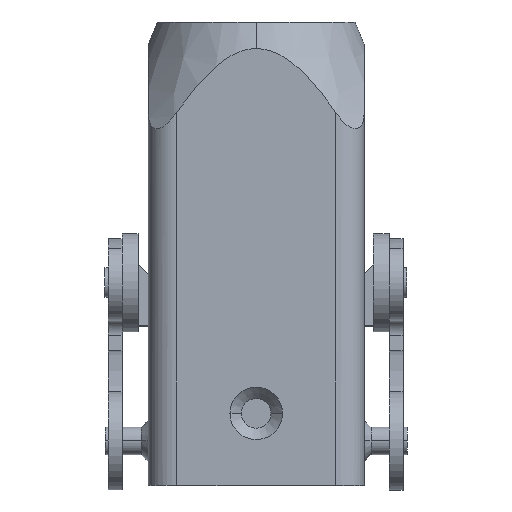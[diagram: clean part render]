
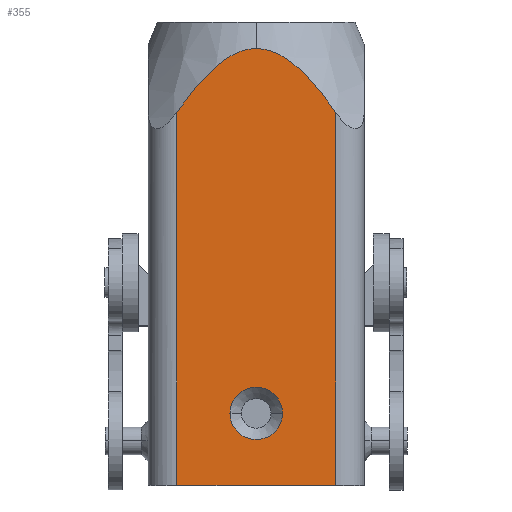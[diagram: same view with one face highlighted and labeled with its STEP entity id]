
A CAD part, top view. The second image highlights one B-rep face of the part: STEP entity #355.
In plain terms, the highlighted planar face has unit normal (0, 0, 1).
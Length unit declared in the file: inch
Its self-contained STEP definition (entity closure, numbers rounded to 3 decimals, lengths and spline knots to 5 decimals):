
#352 = VERTEX_POINT ( 'NONE', #2015 ) ;
#354 = EDGE_CURVE ( 'NONE', #628, #352, #2013, .T. ) ;
#355 = ADVANCED_FACE ( 'NONE', ( #2005, #2009 ), #1959, .F. ) ;
#356 = EDGE_LOOP ( 'NONE', ( #357, #427 ) ) ;
#357 = ORIENTED_EDGE ( 'NONE', *, *, #535, .T. ) ;
#358 = EDGE_LOOP ( 'NONE', ( #429, #430, #431, #434, #420 ) ) ;
#420 = ORIENTED_EDGE ( 'NONE', *, *, #421, .F. ) ;
#421 = EDGE_CURVE ( 'NONE', #631, #436, #2185, .T. ) ;
#427 = ORIENTED_EDGE ( 'NONE', *, *, #428, .T. ) ;
#428 = EDGE_CURVE ( 'NONE', #563, #536, #2432, .T. ) ;
#429 = ORIENTED_EDGE ( 'NONE', *, *, #630, .F. ) ;
#430 = ORIENTED_EDGE ( 'NONE', *, *, #354, .T. ) ;
#431 = ORIENTED_EDGE ( 'NONE', *, *, #432, .T. ) ;
#432 = EDGE_CURVE ( 'NONE', #352, #433, #2465, .T. ) ;
#433 = VERTEX_POINT ( 'NONE', #2552 ) ;
#434 = ORIENTED_EDGE ( 'NONE', *, *, #435, .F. ) ;
#435 = EDGE_CURVE ( 'NONE', #436, #433, #2551, .T. ) ;
#436 = VERTEX_POINT ( 'NONE', #2383 ) ;
#535 = EDGE_CURVE ( 'NONE', #536, #563, #2611, .T. ) ;
#536 = VERTEX_POINT ( 'NONE', #2605 ) ;
#563 = VERTEX_POINT ( 'NONE', #2815 ) ;
#628 = VERTEX_POINT ( 'NONE', #3716 ) ;
#630 = EDGE_CURVE ( 'NONE', #628, #631, #3585, .T. ) ;
#631 = VERTEX_POINT ( 'NONE', #3584 ) ;
#1954 = DIRECTION ( 'NONE',  ( -1., 0., 0. ) ) ;
#1955 = DIRECTION ( 'NONE',  ( 0., 0., -1. ) ) ;
#1956 = CARTESIAN_POINT ( 'NONE',  ( -0.3475, 2.02756, 0.4795 ) ) ;
#1957 = AXIS2_PLACEMENT_3D ( 'NONE', #1956, #1955, #1954 ) ;
#1959 = PLANE ( 'NONE',  #1957 ) ;
#2005 = FACE_BOUND ( 'NONE', #356, .T. ) ;
#2009 = FACE_OUTER_BOUND ( 'NONE', #358, .T. ) ;
#2010 = DIRECTION ( 'NONE',  ( 0., -1., 0. ) ) ;
#2011 = VECTOR ( 'NONE', #2010, 39.37008 ) ;
#2012 = CARTESIAN_POINT ( 'NONE',  ( -0.3475, 2.02756, 0.4795 ) ) ;
#2013 = LINE ( 'NONE', #2012, #2011 ) ;
#2015 = CARTESIAN_POINT ( 'NONE',  ( -0.3475, 0., 0.4795 ) ) ;
#2159 = CARTESIAN_POINT ( 'NONE',  ( 0.3475, 1.63234, 0.4795 ) ) ;
#2160 = CARTESIAN_POINT ( 'NONE',  ( 0.32575, 1.66393, 0.4795 ) ) ;
#2161 = CARTESIAN_POINT ( 'NONE',  ( 0.30299, 1.69509, 0.4795 ) ) ;
#2162 = CARTESIAN_POINT ( 'NONE',  ( 0.25497, 1.75486, 0.4795 ) ) ;
#2163 = CARTESIAN_POINT ( 'NONE',  ( 0.22971, 1.78358, 0.4795 ) ) ;
#2164 = CARTESIAN_POINT ( 'NONE',  ( 0.18831, 1.82338, 0.4795 ) ) ;
#2165 = CARTESIAN_POINT ( 'NONE',  ( 0.17392, 1.83609, 0.4795 ) ) ;
#2166 = CARTESIAN_POINT ( 'NONE',  ( 0.14335, 1.85985, 0.4795 ) ) ;
#2167 = CARTESIAN_POINT ( 'NONE',  ( 0.12726, 1.87081, 0.4795 ) ) ;
#2168 = CARTESIAN_POINT ( 'NONE',  ( 0.10201, 1.88484, 0.4795 ) ) ;
#2169 = CARTESIAN_POINT ( 'NONE',  ( 0.09338, 1.88913, 0.4795 ) ) ;
#2170 = CARTESIAN_POINT ( 'NONE',  ( 0.07562, 1.89676, 0.4795 ) ) ;
#2171 = CARTESIAN_POINT ( 'NONE',  ( 0.06641, 1.90012, 0.4795 ) ) ;
#2172 = CARTESIAN_POINT ( 'NONE',  ( 0.03846, 1.9083, 0.4795 ) ) ;
#2173 = CARTESIAN_POINT ( 'NONE',  ( 0.01945, 1.91123, 0.4795 ) ) ;
#2183 = CARTESIAN_POINT ( 'NONE',  ( 0., 1.91123, 0.4795 ) ) ;
#2185 = B_SPLINE_CURVE_WITH_KNOTS ( 'NONE', 3,
 ( #2183, #2173, #2172, #2171, #2170, #2169, #2168, #2167, #2166, #2165, #2164, #2163, #2162, #2161, #2160, #2159 ),
 .UNSPECIFIED., .F., .F.,
 ( 4, 2, 2, 2, 2, 2, 2, 4 ),
 ( 0.03109, 0.03255, 0.03328, 0.03401, 0.03547, 0.03693, 0.03985, 0.04277 ),
 .UNSPECIFIED. ) ;
#2383 = CARTESIAN_POINT ( 'NONE',  ( 0.3475, 1.63234, 0.4795 ) ) ;
#2384 = DIRECTION ( 'NONE',  ( 0., -1., 0. ) ) ;
#2385 = VECTOR ( 'NONE', #2384, 39.37008 ) ;
#2386 = CARTESIAN_POINT ( 'NONE',  ( 0.3475, 2.02756, 0.4795 ) ) ;
#2429 = DIRECTION ( 'NONE',  ( 0., 0., -1. ) ) ;
#2430 = CARTESIAN_POINT ( 'NONE',  ( 0., 0.315, 0.4795 ) ) ;
#2431 = AXIS2_PLACEMENT_3D ( 'NONE', #2430, #2429, #2466 ) ;
#2432 = CIRCLE ( 'NONE', #2431, 0.115 ) ;
#2462 = DIRECTION ( 'NONE',  ( 1., 0., 0. ) ) ;
#2463 = VECTOR ( 'NONE', #2462, 39.37008 ) ;
#2464 = CARTESIAN_POINT ( 'NONE',  ( -0.3475, 0., 0.4795 ) ) ;
#2465 = LINE ( 'NONE', #2464, #2463 ) ;
#2466 = DIRECTION ( 'NONE',  ( -1., 0., 0. ) ) ;
#2551 = LINE ( 'NONE', #2386, #2385 ) ;
#2552 = CARTESIAN_POINT ( 'NONE',  ( 0.3475, 0., 0.4795 ) ) ;
#2605 = CARTESIAN_POINT ( 'NONE',  ( 0.115, 0.315, 0.4795 ) ) ;
#2607 = DIRECTION ( 'NONE',  ( -1., 0., 0. ) ) ;
#2608 = DIRECTION ( 'NONE',  ( 0., 0., -1. ) ) ;
#2609 = CARTESIAN_POINT ( 'NONE',  ( 0., 0.315, 0.4795 ) ) ;
#2610 = AXIS2_PLACEMENT_3D ( 'NONE', #2609, #2608, #2607 ) ;
#2611 = CIRCLE ( 'NONE', #2610, 0.115 ) ;
#2815 = CARTESIAN_POINT ( 'NONE',  ( -0.115, 0.315, 0.4795 ) ) ;
#3583 = CARTESIAN_POINT ( 'NONE',  ( -0.3475, 1.63234, 0.4795 ) ) ;
#3584 = CARTESIAN_POINT ( 'NONE',  ( 0., 1.91123, 0.4795 ) ) ;
#3585 = B_SPLINE_CURVE_WITH_KNOTS ( 'NONE', 3,
 ( #3583, #3686, #3685, #3684, #3683, #3682, #3681, #3680, #3679, #3678, #3677, #3676, #3675, #3674, #3673, #3672, #3671 ),
 .UNSPECIFIED., .F., .F.,
 ( 4, 2, 2, 2, 2, 2, 1, 2, 4 ),
 ( 0.01944, 0.02235, 0.02527, 0.02672, 0.02818, 0.0289, 0.02963, 0.03036, 0.03109 ),
 .UNSPECIFIED. ) ;
#3671 = CARTESIAN_POINT ( 'NONE',  ( 0., 1.91123, 0.4795 ) ) ;
#3672 = CARTESIAN_POINT ( 'NONE',  ( -0.00969, 1.91123, 0.4795 ) ) ;
#3673 = CARTESIAN_POINT ( 'NONE',  ( -0.01945, 1.91049, 0.4795 ) ) ;
#3674 = CARTESIAN_POINT ( 'NONE',  ( -0.03845, 1.90765, 0.4795 ) ) ;
#3675 = CARTESIAN_POINT ( 'NONE',  ( -0.0571, 1.90348, 0.4795 ) ) ;
#3676 = CARTESIAN_POINT ( 'NONE',  ( -0.07515, 1.89694, 0.4795 ) ) ;
#3677 = CARTESIAN_POINT ( 'NONE',  ( -0.09294, 1.88934, 0.4795 ) ) ;
#3678 = CARTESIAN_POINT ( 'NONE',  ( -0.10167, 1.88502, 0.4795 ) ) ;
#3679 = CARTESIAN_POINT ( 'NONE',  ( -0.12699, 1.87099, 0.4795 ) ) ;
#3680 = CARTESIAN_POINT ( 'NONE',  ( -0.14294, 1.86014, 0.4795 ) ) ;
#3681 = CARTESIAN_POINT ( 'NONE',  ( -0.17353, 1.83641, 0.4795 ) ) ;
#3682 = CARTESIAN_POINT ( 'NONE',  ( -0.18802, 1.82365, 0.4795 ) ) ;
#3683 = CARTESIAN_POINT ( 'NONE',  ( -0.22955, 1.78376, 0.4795 ) ) ;
#3684 = CARTESIAN_POINT ( 'NONE',  ( -0.25486, 1.75499, 0.4795 ) ) ;
#3685 = CARTESIAN_POINT ( 'NONE',  ( -0.30299, 1.6951, 0.4795 ) ) ;
#3686 = CARTESIAN_POINT ( 'NONE',  ( -0.32575, 1.66393, 0.4795 ) ) ;
#3716 = CARTESIAN_POINT ( 'NONE',  ( -0.3475, 1.63234, 0.4795 ) ) ;
